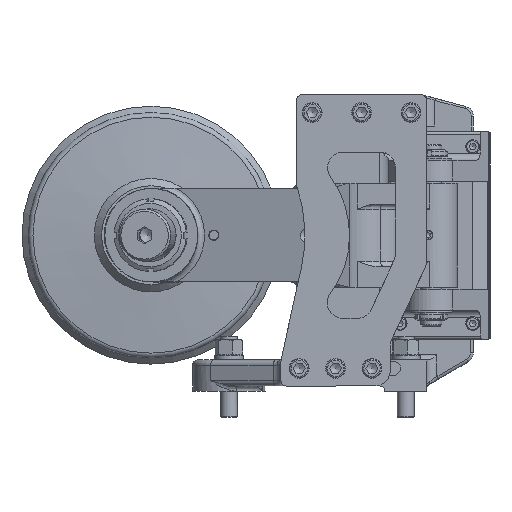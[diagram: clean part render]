
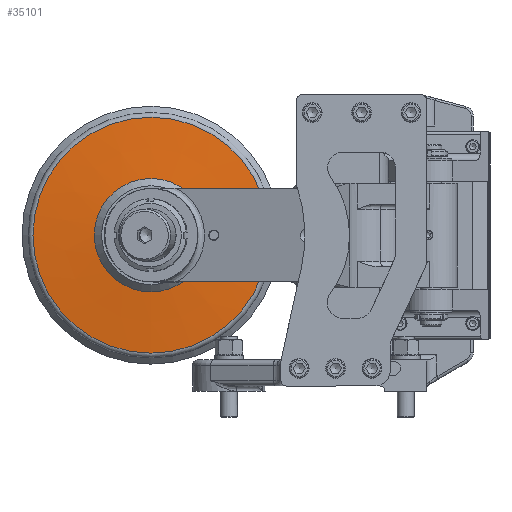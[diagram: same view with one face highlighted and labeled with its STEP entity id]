
A CAD part, left-side view. The second image highlights one B-rep face of the part: STEP entity #35101.
In plain terms, the highlighted conical face has half-angle 85 degrees and reference radius 83.968 mm.
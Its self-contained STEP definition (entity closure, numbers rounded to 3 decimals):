
#2281=CONICAL_SURFACE('',#38702,83.968,1.484);
#3957=FACE_OUTER_BOUND('',#6016,.T.);
#6016=EDGE_LOOP('',(#30060,#30061,#30062,#30063,#30064,#30065,#30066));
#8385=LINE('',#67669,#10699);
#10699=VECTOR('',#48098,83.968);
#12574=CIRCLE('',#38699,113.436);
#12575=CIRCLE('',#38700,113.436);
#12576=CIRCLE('',#38701,113.436);
#12577=CIRCLE('',#38703,54.5);
#12578=CIRCLE('',#38704,54.5);
#15793=VERTEX_POINT('',#67660);
#15794=VERTEX_POINT('',#67662);
#15795=VERTEX_POINT('',#67664);
#15796=VERTEX_POINT('',#67668);
#15797=VERTEX_POINT('',#67670);
#20651=EDGE_CURVE('',#15793,#15794,#12574,.T.);
#20652=EDGE_CURVE('',#15794,#15795,#12575,.T.);
#20653=EDGE_CURVE('',#15795,#15793,#12576,.T.);
#20654=EDGE_CURVE('',#15794,#15796,#8385,.T.);
#20655=EDGE_CURVE('',#15796,#15797,#12577,.T.);
#20656=EDGE_CURVE('',#15797,#15796,#12578,.T.);
#30060=ORIENTED_EDGE('',*,*,#20653,.F.);
#30061=ORIENTED_EDGE('',*,*,#20652,.F.);
#30062=ORIENTED_EDGE('',*,*,#20654,.T.);
#30063=ORIENTED_EDGE('',*,*,#20655,.T.);
#30064=ORIENTED_EDGE('',*,*,#20656,.T.);
#30065=ORIENTED_EDGE('',*,*,#20654,.F.);
#30066=ORIENTED_EDGE('',*,*,#20651,.F.);
#35101=ADVANCED_FACE('',(#3957),#2281,.T.);
#38699=AXIS2_PLACEMENT_3D('',#67663,#48090,#48091);
#38700=AXIS2_PLACEMENT_3D('',#67665,#48092,#48093);
#38701=AXIS2_PLACEMENT_3D('',#67666,#48094,#48095);
#38702=AXIS2_PLACEMENT_3D('',#67667,#48096,#48097);
#38703=AXIS2_PLACEMENT_3D('',#67671,#48099,#48100);
#38704=AXIS2_PLACEMENT_3D('',#67672,#48101,#48102);
#48090=DIRECTION('center_axis',(1.,0.,0.));
#48091=DIRECTION('ref_axis',(0.,0.,
1.));
#48092=DIRECTION('center_axis',(1.,0.,0.));
#48093=DIRECTION('ref_axis',(0.,0.,
1.));
#48094=DIRECTION('center_axis',(1.,0.,0.));
#48095=DIRECTION('ref_axis',(0.,0.,
1.));
#48096=DIRECTION('center_axis',(1.,0.,0.));
#48097=DIRECTION('ref_axis',(0.,0.,
1.));
#48098=DIRECTION('',(-0.087,0.,0.996));
#48099=DIRECTION('center_axis',(1.,0.,0.));
#48100=DIRECTION('ref_axis',(0.,0.,
1.));
#48101=DIRECTION('center_axis',(1.,0.,0.));
#48102=DIRECTION('ref_axis',(0.,0.,
1.));
#67660=CARTESIAN_POINT('',(114.256,196.564,150.));
#67662=CARTESIAN_POINT('',(114.256,310.,36.564));
#67663=CARTESIAN_POINT('Origin',(114.256,310.,150.));
#67664=CARTESIAN_POINT('',(114.256,310.,263.436));
#67665=CARTESIAN_POINT('Origin',(114.256,310.,150.));
#67666=CARTESIAN_POINT('Origin',(114.256,310.,150.));
#67667=CARTESIAN_POINT('Origin',(111.678,310.,150.));
#67668=CARTESIAN_POINT('',(109.1,310.,95.5));
#67669=CARTESIAN_POINT('',(111.678,310.,66.032));
#67670=CARTESIAN_POINT('',(109.1,310.,204.5));
#67671=CARTESIAN_POINT('Origin',(109.1,310.,150.));
#67672=CARTESIAN_POINT('Origin',(109.1,310.,150.));
